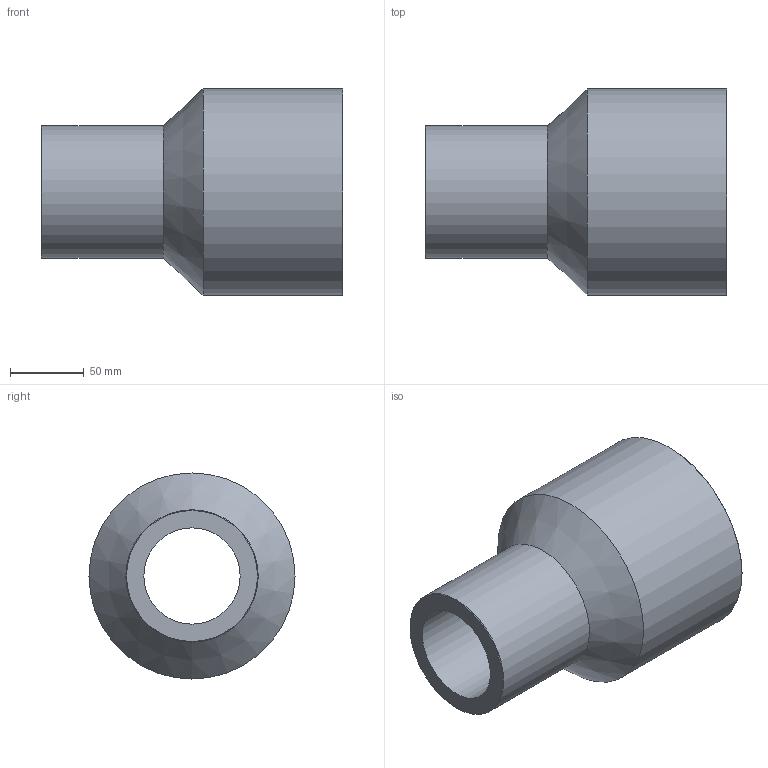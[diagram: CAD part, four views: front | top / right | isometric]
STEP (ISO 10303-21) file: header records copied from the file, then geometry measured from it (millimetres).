
FILE_DESCRIPTION(/* description */ ('Unknown'),/* implementation_level */ '2;1');
FILE_NAME(/* name */ 'RP140090H',/* time_stamp */ '2021-09-16T12:31:25+02:00',/* author */ ('Unknown'),/* organization */ ('Unknown'),/* preprocessor_version */ 'ST-DEVELOPER v16.7',/* originating_system */ 'Solid Edge',/* authorisation */ 'Unknown');
FILE_SCHEMA (('AUTOMOTIVE_DESIGN {1 0 10303 214 3 1 1}'));
Length unit declared in the file: millimetre
Products named in the file (1): RP140090H
Bounding box: 205 x 140 x 140 mm (x, y, z)
Volume: 1111464.6 mm3; surface area: 143717.1 mm2
Topology: 1 solids, 1 shells, 10 faces, 19 edges, 11 vertices
Faces by surface type: cylinder 4, cone 4, plane 2
Full cylindrical faces by diameter (mm): 65.4 x1, 90 x1, 101.6 x1, 140 x1
Entity records: 238 total; most frequent: DIRECTION 42, CARTESIAN_POINT 31, AXIS2_PLACEMENT_3D 21, ORIENTED_EDGE 20, EDGE_LOOP 20, FACE_BOUND 20, EDGE_CURVE 10, VERTEX_POINT 10
